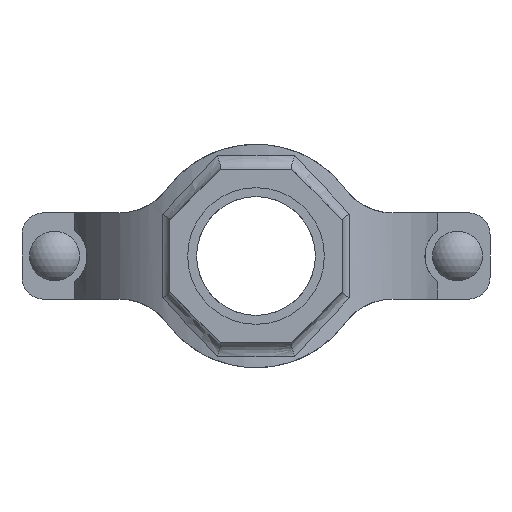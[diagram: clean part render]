
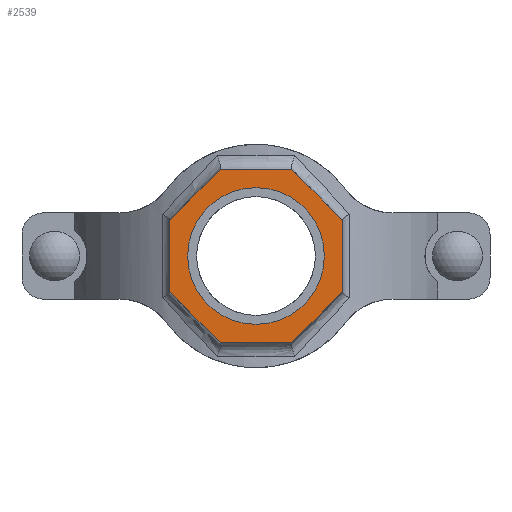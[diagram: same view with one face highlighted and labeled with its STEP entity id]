
A CAD part, front view. The second image highlights one B-rep face of the part: STEP entity #2539.
In plain terms, the highlighted planar face has unit normal (0, -1, 0) as drawn and (0, 1, 0) by its records, which use the part's own axes.
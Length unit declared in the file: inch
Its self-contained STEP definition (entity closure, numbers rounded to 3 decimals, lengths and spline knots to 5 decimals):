
#186=FACE_BOUND('',#459,.T.);
#307=FACE_OUTER_BOUND('',#458,.T.);
#458=EDGE_LOOP('',(#2138,#2139,#2140,#2141,#2142,#2143,#2144,#2145));
#459=EDGE_LOOP('',(#2146));
#594=LINE('',#4809,#780);
#597=LINE('',#4814,#783);
#599=LINE('',#4818,#785);
#601=LINE('',#4822,#787);
#641=LINE('',#5279,#827);
#643=LINE('',#5283,#829);
#645=LINE('',#5287,#831);
#647=LINE('',#5290,#833);
#780=VECTOR('',#3278,0.3937);
#783=VECTOR('',#3283,0.3937);
#785=VECTOR('',#3287,0.3937);
#787=VECTOR('',#3291,0.3937);
#827=VECTOR('',#3427,0.3937);
#829=VECTOR('',#3431,0.3937);
#831=VECTOR('',#3435,0.3937);
#833=VECTOR('',#3439,0.3937);
#919=CIRCLE('',#2802,1.1875);
#1097=VERTEX_POINT('',#4806);
#1098=VERTEX_POINT('',#4808);
#1099=VERTEX_POINT('',#4812);
#1100=VERTEX_POINT('',#4816);
#1101=VERTEX_POINT('',#4820);
#1136=VERTEX_POINT('',#5116);
#1160=VERTEX_POINT('',#5278);
#1161=VERTEX_POINT('',#5282);
#1162=VERTEX_POINT('',#5286);
#1408=EDGE_CURVE('',#1098,#1097,#594,.T.);
#1411=EDGE_CURVE('',#1097,#1099,#597,.T.);
#1413=EDGE_CURVE('',#1099,#1100,#599,.T.);
#1415=EDGE_CURVE('',#1100,#1101,#601,.T.);
#1461=EDGE_CURVE('',#1136,#1136,#919,.T.);
#1495=EDGE_CURVE('',#1160,#1098,#641,.T.);
#1497=EDGE_CURVE('',#1161,#1160,#643,.T.);
#1499=EDGE_CURVE('',#1162,#1161,#645,.T.);
#1501=EDGE_CURVE('',#1101,#1162,#647,.T.);
#2138=ORIENTED_EDGE('',*,*,#1501,.T.);
#2139=ORIENTED_EDGE('',*,*,#1499,.T.);
#2140=ORIENTED_EDGE('',*,*,#1497,.T.);
#2141=ORIENTED_EDGE('',*,*,#1495,.T.);
#2142=ORIENTED_EDGE('',*,*,#1408,.T.);
#2143=ORIENTED_EDGE('',*,*,#1411,.T.);
#2144=ORIENTED_EDGE('',*,*,#1413,.T.);
#2145=ORIENTED_EDGE('',*,*,#1415,.T.);
#2146=ORIENTED_EDGE('',*,*,#1461,.T.);
#2280=PLANE('',#2825);
#2539=ADVANCED_FACE('',(#307,#186),#2280,.T.);
#2802=AXIS2_PLACEMENT_3D('',#5117,#3369,#3370);
#2825=AXIS2_PLACEMENT_3D('',#5291,#3440,#3441);
#3278=DIRECTION('',(0.,0.,1.));
#3283=DIRECTION('',(0.707,0.,0.707));
#3287=DIRECTION('',(1.,0.,0.));
#3291=DIRECTION('',(0.707,0.,-0.707));
#3369=DIRECTION('center_axis',(0.,-1.,0.));
#3370=DIRECTION('ref_axis',(-1.,0.,0.));
#3427=DIRECTION('',(-0.707,0.,0.707));
#3431=DIRECTION('',(-1.,0.,0.));
#3435=DIRECTION('',(-0.707,0.,-0.707));
#3439=DIRECTION('',(0.,0.,-1.));
#3440=DIRECTION('center_axis',(0.,1.,0.));
#3441=DIRECTION('ref_axis',(0.,0.,1.));
#4806=CARTESIAN_POINT('',(-1.5,4.5,0.62132));
#4808=CARTESIAN_POINT('',(-1.5,4.5,-0.62132));
#4809=CARTESIAN_POINT('',(-1.5,4.5,0.62132));
#4812=CARTESIAN_POINT('',(-0.62132,4.5,1.5));
#4814=CARTESIAN_POINT('',(-0.62132,4.5,1.5));
#4816=CARTESIAN_POINT('',(0.62132,4.5,1.5));
#4818=CARTESIAN_POINT('',(0.62132,4.5,1.5));
#4820=CARTESIAN_POINT('',(1.5,4.5,0.62132));
#4822=CARTESIAN_POINT('',(1.5,4.5,0.62132));
#5116=CARTESIAN_POINT('',(1.1875,4.5,0.));
#5117=CARTESIAN_POINT('Origin',(0.,4.5,0.));
#5278=CARTESIAN_POINT('',(-0.62132,4.5,-1.5));
#5279=CARTESIAN_POINT('',(-1.5,4.5,-0.62132));
#5282=CARTESIAN_POINT('',(0.62132,4.5,-1.5));
#5283=CARTESIAN_POINT('',(-0.62132,4.5,-1.5));
#5286=CARTESIAN_POINT('',(1.5,4.5,-0.62132));
#5287=CARTESIAN_POINT('',(0.62132,4.5,-1.5));
#5290=CARTESIAN_POINT('',(1.5,4.5,-0.62132));
#5291=CARTESIAN_POINT('Origin',(0.,4.5,0.));
